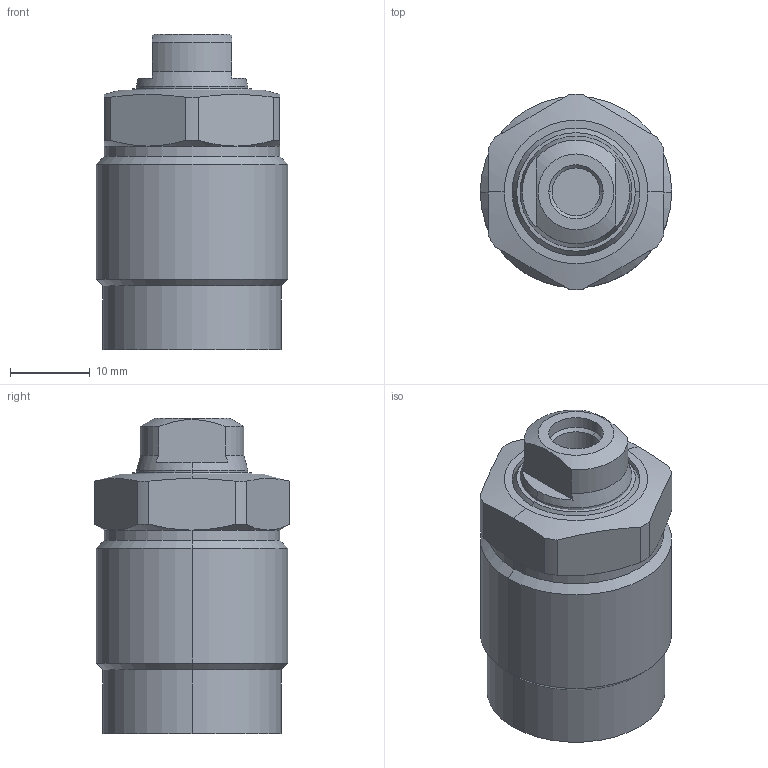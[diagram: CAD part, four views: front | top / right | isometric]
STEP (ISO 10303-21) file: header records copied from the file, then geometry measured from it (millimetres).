
FILE_DESCRIPTION((' '),'2;1');
FILE_NAME( 'TGP24-AS.x_t.stp', '2025-02-10T16:03:52', (' '), ('--- Datakit www.datakit.com---'), ' Datakit CrossCadWare V2024.1 Dec 21 2023', 'Mastercam 2025', ' ');
FILE_SCHEMA(('AUTOMOTIVE_DESIGN { 1 0 10303 214 1 1 1 1 }'));
Length unit declared in the file: millimetre
Products named in the file (1): TGP24-AS
Bounding box: 24 x 24.49 x 39.5 mm (x, y, z)
Volume: 15250 mm3; surface area: 4614.8 mm2
Topology: 2 solids, 2 shells, 82 faces, 187 edges, 116 vertices
Faces by surface type: cylinder 34, plane 22, cone 22, torus 4
Entity records: 2448 total; most frequent: CARTESIAN_POINT 556, DIRECTION 420, ORIENTED_EDGE 370, EDGE_CURVE 185, AXIS2_PLACEMENT_3D 180, VERTEX_POINT 116, CIRCLE 97, EDGE_LOOP 91
